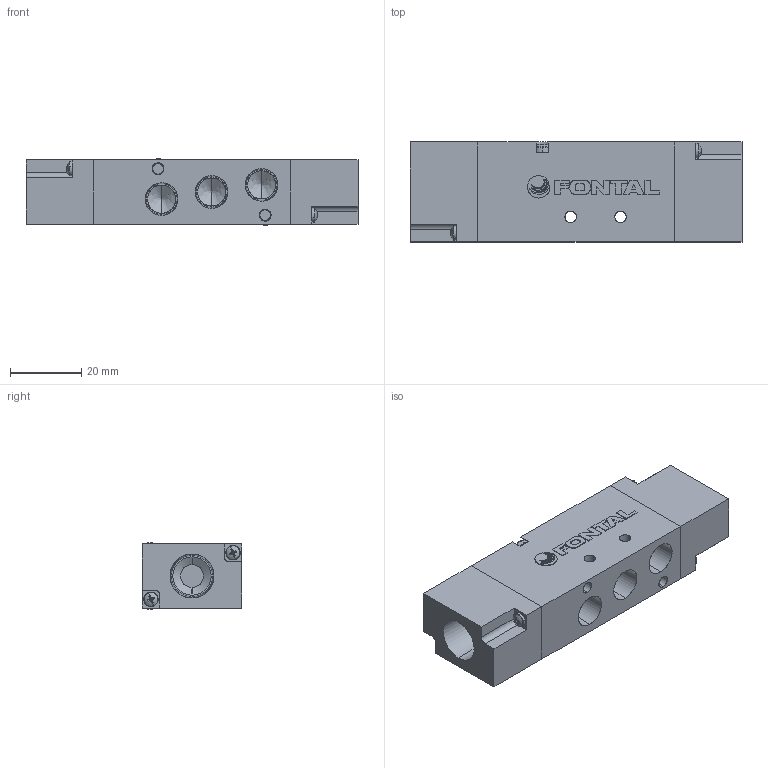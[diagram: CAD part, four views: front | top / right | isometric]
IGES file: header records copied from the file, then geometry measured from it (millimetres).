
Start section: SolidWorks IGES file using analytic representation for surfaces
Global section: file name: D:\Custom\3D繪製\VC\YC13\YCD3413-01.IGS,1; native system: 5HSolidWorks 2014; preprocessor: SolidWorks 2014; author: Chieh_Lu; date: 160114.021824; units: millimetre
Bounding box: 93 x 28 x 18.6 mm (x, y, z)
Surface area: 16522.9 mm2 (no closed solid volume)
Topology: 0 solids, 0 shells, 458 faces, 4542 edges, 4520 vertices
Faces by surface type: bspline 270, revolution 188
